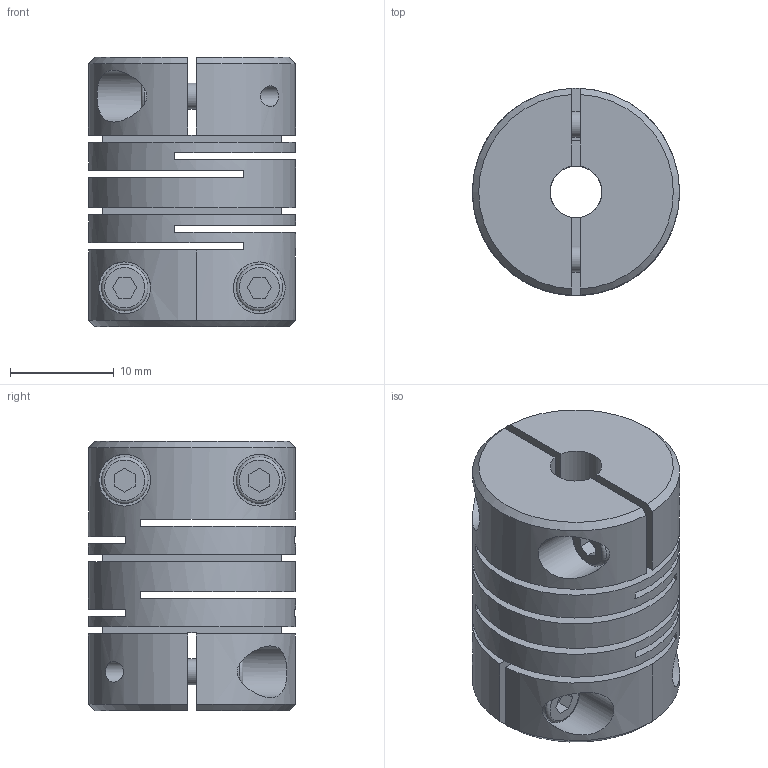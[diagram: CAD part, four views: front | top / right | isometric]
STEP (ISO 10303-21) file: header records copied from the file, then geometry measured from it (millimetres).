
FILE_DESCRIPTION (( 'STEP AP214' ), '1' );
FILE_NAME ('2246-20-B5-6-NI.step', '2022-05-27T09:30:50', ( '' ), ( '' ), 'SwSTEP 2.0', 'SolidWorks 2019', '' );
FILE_SCHEMA (( 'AUTOMOTIVE_DESIGN' ));
Length unit declared in the file: millimetre
Products named in the file (1): 2246-20-B5-6-NI
Bounding box: 20 x 20 x 26 mm (x, y, z)
Volume: 6119.4 mm3; surface area: 6154.8 mm2
Topology: 1 solids, 1 shells, 123 faces, 308 edges, 208 vertices
Faces by surface type: plane 79, cylinder 32, cone 8, torus 4
Full cylindrical faces by diameter (mm): 2.01 x4, 2.5 x4, 2.7 x4, 4.5 x4, 5 x7, 6 x3, 20 x1
Entity records: 4264 total; most frequent: CARTESIAN_POINT 939, DIRECTION 552, ORIENTED_EDGE 476, EDGE_CURVE 238, AXIS2_PLACEMENT_3D 207, EDGE_LOOP 200, VERTEX_POINT 178, FACE_OUTER_BOUND 153
